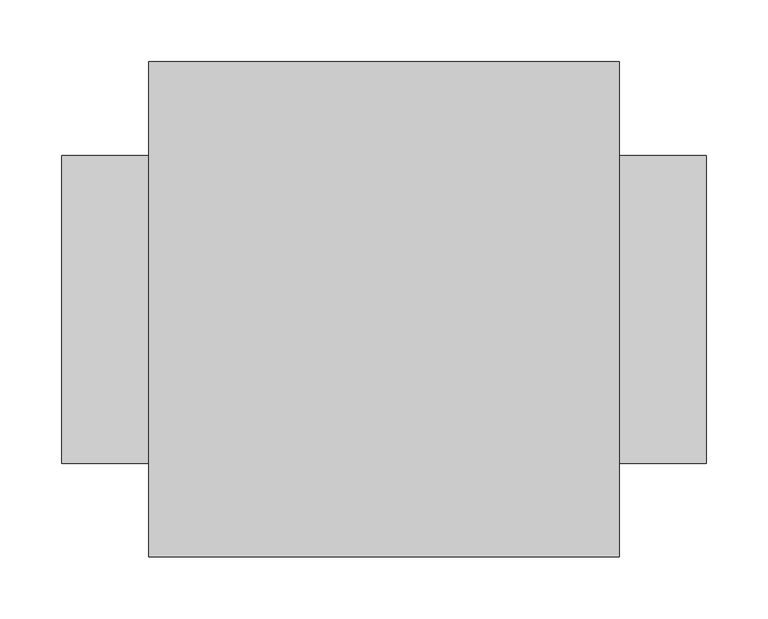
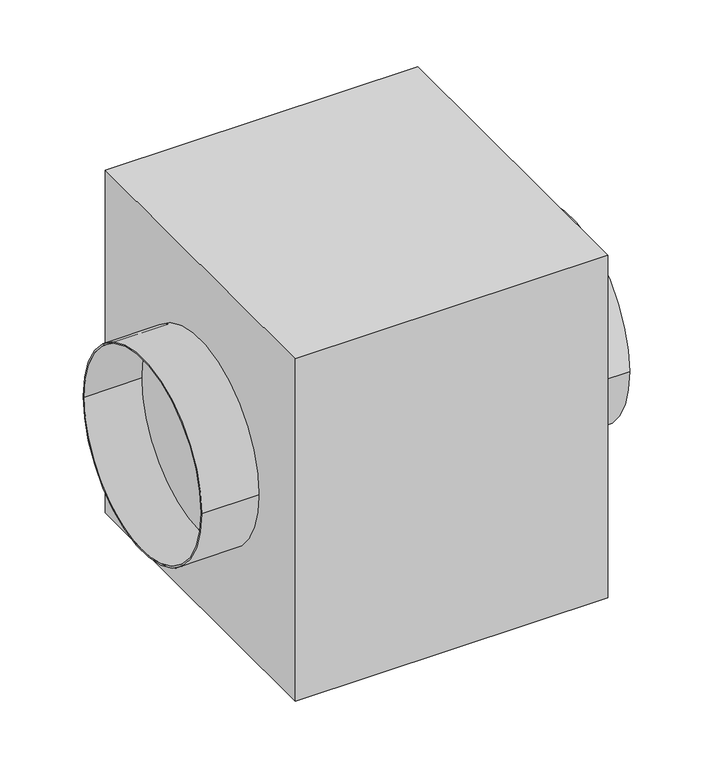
"""IFC4 building model written with IfcOpenShell, lengths in millimetres: proxy geometry, СВ_Вентилятор_КанальныйКруглый_DN100-315_SVK-SVKH : SVKH-250."""

from ifc_helpers import new_model, si_unit, point, frame, origin, origin_2d, place, context, project, spatial, polyline, circle_curve, trimmed, segment, composite_curve, outline, extrude, source, transform, mapped, element, save


def mechanical_equipment_c4cbaf2e(model_context):
    return source(origin(), model_context, "Body", "SweptSolid", [
        extrude(outline(polyline([(190.0, -200.0), (-190.0, -200.0), (-190.0, 200.0), (190.0, 200.0), (190.0, -200.0)])), frame((0.0, 0.0, -220.0), z_axis=(0.0, 0.0, 1.0), x_axis=(1.0, 0.0, 0.0)), (0.0, 0.0, 1.0), 440.0),
        extrude(outline(composite_curve([segment(trimmed(circle_curve(origin_2d(), 124.5), [point((-124.5, 0.0))], [point((124.5, 0.0))], False, "CARTESIAN"), True, "CONTINUOUS"), segment(trimmed(circle_curve(origin_2d(), 124.5), [point((124.5, 0.0))], [point((-124.5, 0.0))], False, "CARTESIAN"), True, "CONTINUOUS")], self_intersect=False), holes=[composite_curve([segment(trimmed(circle_curve(origin_2d(), 122.5), [point((-122.5, 0.0))], [point((122.5, 0.0))], True, "CARTESIAN"), True, "CONTINUOUS"), segment(trimmed(circle_curve(origin_2d(), 122.5), [point((122.5, 0.0))], [point((-122.5, 0.0))], True, "CARTESIAN"), True, "CONTINUOUS")], self_intersect=False)]), frame((-260.0, 0.0, 0.0), z_axis=(1.0, 0.0, 0.0), x_axis=(0.0, 1.0, 0.0)), (0.0, 0.0, 1.0), 70.0),
        extrude(outline(composite_curve([segment(trimmed(circle_curve(origin_2d(), 124.5), [point((-124.5, 0.0))], [point((124.5, 0.0))], False, "CARTESIAN"), True, "CONTINUOUS"), segment(trimmed(circle_curve(origin_2d(), 124.5), [point((124.5, 0.0))], [point((-124.5, 0.0))], False, "CARTESIAN"), True, "CONTINUOUS")], self_intersect=False), holes=[composite_curve([segment(trimmed(circle_curve(origin_2d(), 122.5), [point((-122.5, 0.0))], [point((122.5, 0.0))], True, "CARTESIAN"), True, "CONTINUOUS"), segment(trimmed(circle_curve(origin_2d(), 122.5), [point((122.5, 0.0))], [point((-122.5, 0.0))], True, "CARTESIAN"), True, "CONTINUOUS")], self_intersect=False)]), frame((190.0, 0.0, 0.0), z_axis=(1.0, 0.0, 0.0), x_axis=(0.0, 1.0, 0.0)), (0.0, 0.0, 1.0), 70.0),
    ])


if __name__ == "__main__":
    model = new_model("IFC4")
    model_context = context("Model", 3, world=origin())
    ifc_project = project(units=[si_unit("LENGTHUNIT", "METRE", prefix="MILLI")], contexts=[model_context])
    site = spatial("IfcSite", under=ifc_project)
    building = spatial("IfcBuilding", under=site)
    placement = place(None, origin())
    mechanical_equipment_shape = mechanical_equipment_c4cbaf2e(model_context)
    element("IfcBuildingElementProxy", 1, Name="СВ_Вентилятор_КанальныйКруглый_DN100-315_SVK-SVKH : SVKH-250", ObjectType="СВ_Вентилятор_КанальныйКруглый_DN100-315_SVK-SVKH : SVKH-250", at=placement, inside=building, context=model_context, shape_type="MappedRepresentation", body=[
        mapped(mechanical_equipment_shape, transform((0.0, 0.0, 0.0), x_axis=(1.0, 0.0, 0.0), y_axis=(0.0, 1.0, 0.0), z_axis=(0.0, 0.0, 1.0))),
    ])
    save(model, "model.ifc")
